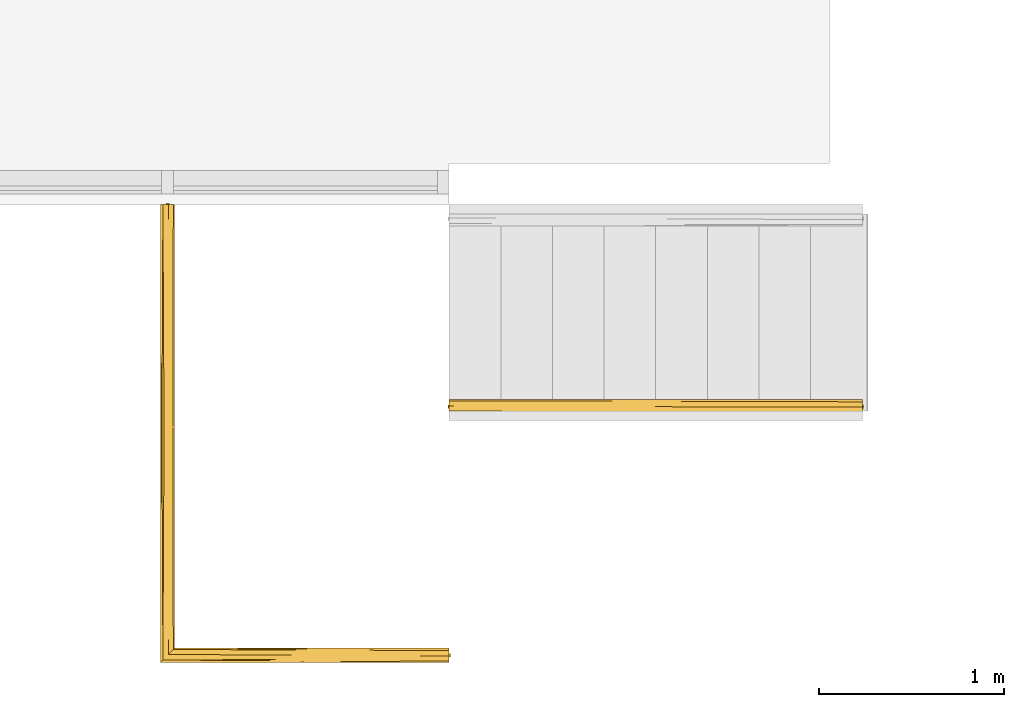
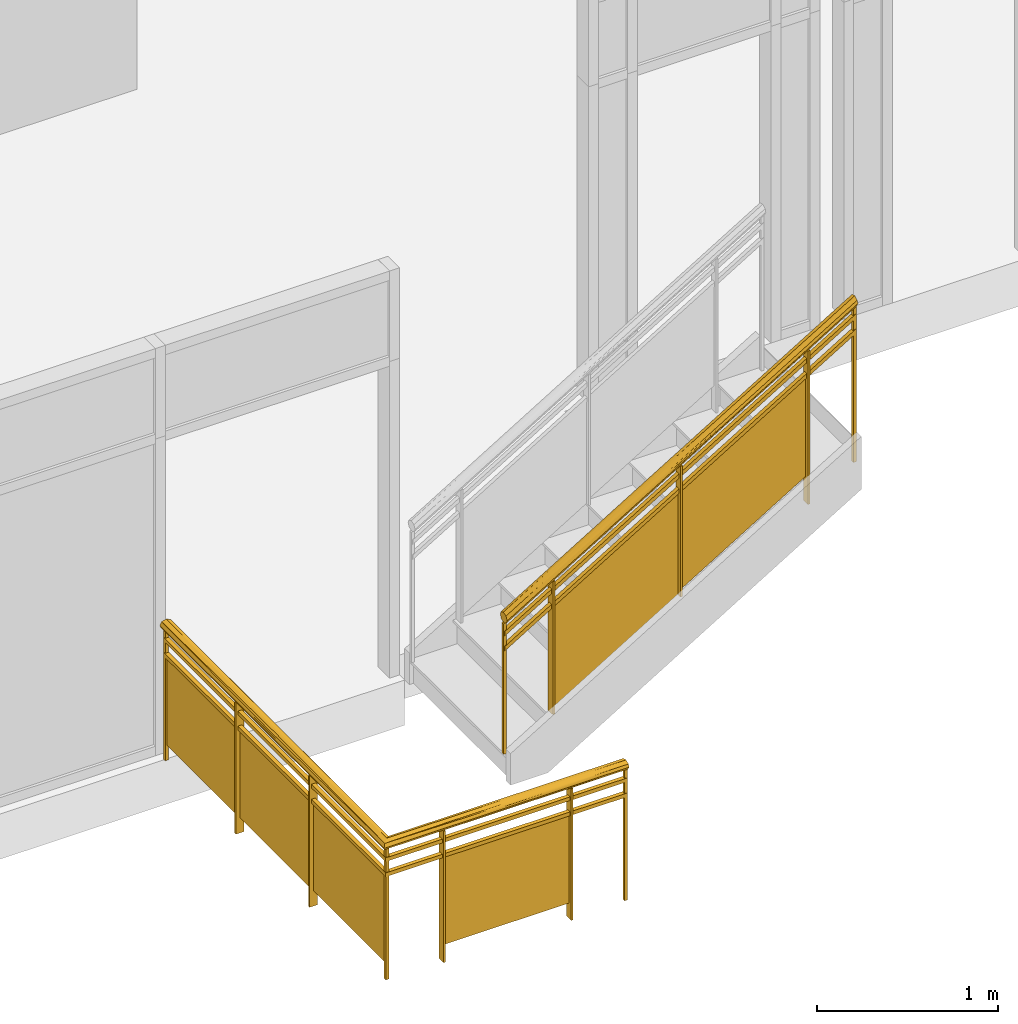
# One storey, part 8 of 11: 2 railings, 1 element without a shape of its own.
"""IFC2X3 building model written with IfcOpenShell, lengths in feet."""

from ifc_helpers import new_model, entity, si_unit, converted_unit, derived_unit, direction, frame, origin, place, context, subcontext, project, spatial, faceted_brep, material, material_list, element, aggregate, save


model = new_model("IFC2X3")

# Units and contexts
model_context = context("Model", 3, precision=0.0001, world=origin(), true_north=direction((6.12303176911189e-17, 1.0)))
body_context = subcontext(model_context, "Body", "Model", "MODEL_VIEW")
ifc_project = project(units=[converted_unit("LENGTHUNIT", "FOOT", entity("IfcRatioMeasure", 0.3048), si_unit("LENGTHUNIT", "METRE"), dimensions=[1, 0, 0, 0, 0, 0, 0]), converted_unit("AREAUNIT", "SQUARE FOOT", entity("IfcRatioMeasure", 0.09290304), si_unit("AREAUNIT", "SQUARE_METRE"), dimensions=[2, 0, 0, 0, 0, 0, 0]), converted_unit("VOLUMEUNIT", "CUBIC FOOT", entity("IfcRatioMeasure", 0.028316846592), si_unit("VOLUMEUNIT", "CUBIC_METRE"), dimensions=[3, 0, 0, 0, 0, 0, 0]), converted_unit("PLANEANGLEUNIT", "DEGREE", entity("IfcRatioMeasure", 0.0174532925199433), si_unit("PLANEANGLEUNIT", "RADIAN"), dimensions=[0, 0, 0, 0, 0, 0, 0]), si_unit("MASSUNIT", "GRAM", prefix="KILO"), derived_unit("MASSDENSITYUNIT", [(si_unit("MASSUNIT", "GRAM", prefix="KILO"), 1), (si_unit("LENGTHUNIT", "METRE"), -3)]), si_unit("TIMEUNIT", "SECOND"), si_unit("FREQUENCYUNIT", "HERTZ"), si_unit("THERMODYNAMICTEMPERATUREUNIT", "DEGREE_CELSIUS"), derived_unit("THERMALTRANSMITTANCEUNIT", [(si_unit("MASSUNIT", "GRAM", prefix="KILO"), 1), (si_unit("THERMODYNAMICTEMPERATUREUNIT", "KELVIN"), -1), (si_unit("TIMEUNIT", "SECOND"), -3)]), derived_unit("VOLUMETRICFLOWRATEUNIT", [(si_unit("LENGTHUNIT", "METRE"), 3), (si_unit("TIMEUNIT", "SECOND"), -1)]), si_unit("ELECTRICCURRENTUNIT", "AMPERE"), si_unit("ELECTRICVOLTAGEUNIT", "VOLT"), si_unit("POWERUNIT", "WATT"), si_unit("FORCEUNIT", "NEWTON"), si_unit("ILLUMINANCEUNIT", "LUX"), si_unit("LUMINOUSFLUXUNIT", "LUMEN"), si_unit("LUMINOUSINTENSITYUNIT", "CANDELA"), derived_unit("USERDEFINED", [(si_unit("MASSUNIT", "GRAM", prefix="KILO"), -1), (si_unit("LENGTHUNIT", "METRE"), -2), (si_unit("TIMEUNIT", "SECOND"), 3), (si_unit("LUMINOUSFLUXUNIT", "LUMEN"), 1)]), derived_unit("LINEARVELOCITYUNIT", [(si_unit("LENGTHUNIT", "METRE"), 1), (si_unit("TIMEUNIT", "SECOND"), -1)]), si_unit("PRESSUREUNIT", "PASCAL"), derived_unit("USERDEFINED", [(si_unit("LENGTHUNIT", "METRE"), -2), (si_unit("MASSUNIT", "GRAM", prefix="KILO"), 1), (si_unit("TIMEUNIT", "SECOND"), -2)])], contexts=[model_context])

# Site, building, storey
site_placement = place(None, origin())
site = spatial("IfcSite", under=ifc_project, at=site_placement, Name="Default", CompositionType="ELEMENT")
building_placement = place(site_placement, origin())
building = spatial("IfcBuilding", under=site, at=building_placement, CompositionType="ELEMENT")
storey_placement = place(building_placement, frame((0.0, 0.0, 40.0)))
storey = spatial("IfcBuildingStorey", under=building, at=storey_placement, Name="L 7", CompositionType="ELEMENT", Elevation=39.9999999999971)

# Stair, railing
stair_placement = place(storey_placement, origin())
stair = element("IfcStair", 1, at=stair_placement, inside=storey, Name="Assembled Stair:Stair", ObjectType="Assembled Stair:7\" max riser 11\" tread", ShapeType="NOTDEFINED")
ifc_material_1 = material(Name="Glass")
ifc_material_2 = material(Name="alum - color")
ifc_material_list_1 = material_list([ifc_material_1, ifc_material_2])
railing_1_placement = place(stair_placement, frame((-46.3459961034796, -11.0505417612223, 0.555555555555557)))
railing_1 = element("IfcRailing", 2, at=railing_1_placement, material=ifc_material_list_1, Name="Railing:Glass Panel - Bottom Fill", ObjectType="Railing:Glass Panel - Bottom Fill", PredefinedType="NOTDEFINED", context=body_context, shape_type="Brep", body=[
    faceted_brep([(6.33333333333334, 0.0469004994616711, 6.71557302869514), (6.33333333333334, 0.213567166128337, 6.71557302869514), (6.33333333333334, 0.213567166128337, 3.33333333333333), (6.33333333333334, 0.0469004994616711, 3.33333333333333), (6.37500000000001, 0.0469004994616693, 6.74082555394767), (6.37500000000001, 0.0469004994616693, 3.33333333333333), (6.37500000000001, 0.213567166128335, 6.74082555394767), (6.37500000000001, 0.213567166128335, 3.33333333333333)], [[[0, 1, 2, 3]], [[4, 0, 3, 5]], [[6, 4, 5, 7]], [[1, 6, 7, 2]], [[1, 0, 4, 6]], [[3, 2, 7, 5]]]),
    faceted_brep([(3.6875, 0.151674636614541, 2.3030303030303), (3.6875, 0.151674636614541, 4.50683388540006), (6.35416666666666, 0.151674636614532, 6.12299550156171), (6.35416666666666, 0.151674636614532, 3.91919191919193), (3.6875, 0.130841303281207, 2.3030303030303), (6.35416666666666, 0.130841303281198, 3.91919191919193), (6.35416666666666, 0.130841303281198, 6.12299550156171), (3.6875, 0.130841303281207, 4.50683388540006)], [[[0, 1, 2, 3]], [[4, 5, 6, 7]], [[1, 0, 4, 7]], [[2, 1, 7, 6]], [[3, 2, 6, 5]], [[0, 3, 5, 4]]]),
    faceted_brep([(3.66666666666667, 0.0469004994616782, 5.09941141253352), (3.66666666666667, 0.213567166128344, 5.09941141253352), (3.66666666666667, 0.213567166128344, 2.22222222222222), (3.66666666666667, 0.0469004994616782, 2.22222222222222), (3.70833333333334, 0.0469004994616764, 5.12466393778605), (3.70833333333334, 0.0469004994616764, 2.22222222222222), (3.70833333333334, 0.213567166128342, 5.12466393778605), (3.70833333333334, 0.213567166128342, 2.22222222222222)], [[[0, 1, 2, 3]], [[4, 0, 3, 5]], [[6, 4, 5, 7]], [[1, 6, 7, 2]], [[1, 0, 4, 6]], [[3, 2, 7, 5]]]),
    faceted_brep([(1.02083333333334, 0.151674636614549, 0.636363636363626), (1.02083333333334, 0.151674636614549, 2.89067226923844), (3.6875, 0.151674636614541, 4.50683388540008), (3.6875, 0.151674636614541, 2.25252525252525), (1.02083333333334, 0.130841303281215, 0.636363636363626), (3.6875, 0.130841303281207, 2.25252525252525), (3.6875, 0.130841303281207, 4.50683388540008), (1.02083333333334, 0.130841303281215, 2.89067226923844)], [[[0, 1, 2, 3]], [[4, 5, 6, 7]], [[1, 0, 4, 7]], [[2, 1, 7, 6]], [[3, 2, 6, 5]], [[0, 3, 5, 4]]]),
    faceted_brep([(1.0, 0.0469004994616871, 3.48324979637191), (1.0, 0.213567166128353, 3.48324979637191), (1.0, 0.213567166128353, 0.555555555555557), (1.0, 0.0469004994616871, 0.555555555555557), (1.04166666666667, 0.0469004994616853, 3.50850232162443), (1.04166666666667, 0.0469004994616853, 0.555555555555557), (1.04166666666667, 0.213567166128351, 3.50850232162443), (1.04166666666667, 0.213567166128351, 0.555555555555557)], [[[0, 1, 2, 3]], [[4, 0, 3, 5]], [[6, 4, 5, 7]], [[1, 6, 7, 2]], [[1, 0, 4, 6]], [[3, 2, 7, 5]]]),
    faceted_brep([(7.31250000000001, 0.0989838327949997, 7.30900737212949), (7.31250000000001, 0.161483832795, 7.30900737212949), (7.31250000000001, 0.161483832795, 3.88888888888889), (7.31250000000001, 0.0989838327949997, 3.88888888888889), (7.37500000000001, 0.0989838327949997, 7.34688616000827), (7.37500000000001, 0.0989838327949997, 3.88888888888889), (7.37500000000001, 0.161483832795, 7.34688616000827), (7.37500000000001, 0.161483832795, 3.88888888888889)], [[[0, 1, 2, 3]], [[4, 0, 3, 5]], [[6, 4, 5, 7]], [[1, 6, 7, 2]], [[1, 0, 4, 6]], [[3, 2, 7, 5]]]),
    faceted_brep([(0.0, 0.0989838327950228, 2.8771891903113), (0.0, 0.161483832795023, 2.8771891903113), (0.0, 0.161483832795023, 0.0), (0.0, 0.0989838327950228, 0.0), (0.0625, 0.0989838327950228, 2.91506797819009), (0.0625, 0.0989838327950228, 0.0), (0.0625, 0.161483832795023, 2.91506797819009), (0.0625, 0.161483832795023, 0.0)], [[[0, 1, 2, 3]], [[4, 0, 3, 5]], [[6, 4, 5, 7]], [[1, 6, 7, 2]], [[1, 0, 4, 6]], [[3, 2, 7, 5]]]),
    faceted_brep([(0.0208333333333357, 0.0885671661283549, 2.71538833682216), (0.0208333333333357, 0.171900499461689, 2.71538833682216), (0.0208333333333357, 0.171900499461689, 2.61794499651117), (0.0208333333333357, 0.0885671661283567, 2.61794499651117), (7.35416666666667, 0.0885671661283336, 7.15983278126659), (7.35416666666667, 0.0885671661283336, 7.06238944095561), (7.35416666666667, 0.171900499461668, 7.06238944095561), (7.35416666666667, 0.171900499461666, 7.15983278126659)], [[[0, 1, 2, 3]], [[4, 5, 6, 7]], [[1, 0, 4, 7]], [[2, 1, 7, 6]], [[3, 2, 6, 5]], [[0, 3, 5, 4]]]),
    faceted_brep([(0.0208333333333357, 0.0885671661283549, 2.38205500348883), (0.0208333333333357, 0.171900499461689, 2.38205500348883), (0.0208333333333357, 0.171900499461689, 2.28461166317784), (0.0208333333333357, 0.0885671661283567, 2.28461166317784), (7.35416666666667, 0.0885671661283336, 6.82649944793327), (7.35416666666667, 0.0885671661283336, 6.72905610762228), (7.35416666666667, 0.171900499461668, 6.72905610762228), (7.35416666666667, 0.171900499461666, 6.82649944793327)], [[[0, 1, 2, 3]], [[4, 5, 6, 7]], [[1, 0, 4, 7]], [[2, 1, 7, 6]], [[3, 2, 6, 5]], [[0, 3, 5, 4]]]),
    faceted_brep([(0.0208333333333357, 0.0465925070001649, 3.08146632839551), (0.0208333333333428, 0.0949461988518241, 3.09524477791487), (0.0208333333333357, 0.14329989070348, 3.10902322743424), (0.0208333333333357, 0.187330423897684, 3.08672922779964), (0.0208333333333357, 0.231360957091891, 3.06443522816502), (0.0208333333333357, 0.243297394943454, 3.03221761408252), (0.0208333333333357, 0.255233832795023, 3.0), (0.0208333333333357, 0.23455449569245, 2.95926683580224), (0.0208333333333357, 0.213875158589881, 2.91853367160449), (0.0208333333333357, 0.165521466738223, 2.90475522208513), (0.0208333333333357, 0.141344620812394, 2.89786599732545), (0.0208333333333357, 0.117167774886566, 2.89097677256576), (0.0208333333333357, 0.0731372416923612, 2.91327077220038), (0.0208333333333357, 0.0291067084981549, 2.93556477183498), (0.0208333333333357, 0.0171702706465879, 2.9677823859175), (0.0208333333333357, 0.00523383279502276, 3.0), (0.0208333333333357, 0.0259131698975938, 3.04073316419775), (7.35416666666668, 0.0259131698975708, 7.40371128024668), (7.35416666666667, 0.0465925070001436, 7.36297811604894), (7.35416666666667, 0.0949461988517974, 7.34919966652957), (7.35416666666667, 0.143299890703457, 7.3354212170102), (7.35416666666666, 0.187330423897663, 7.35771521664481), (7.35416666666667, 0.231360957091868, 7.38000921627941), (7.35416666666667, 0.243297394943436, 7.41222683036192), (7.35416666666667, 0.255233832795, 7.44444444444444), (7.35416666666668, 0.244378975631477, 7.46582582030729), (7.35416666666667, 0.23455449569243, 7.48517760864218), (7.35416666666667, 0.213875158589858, 7.52591077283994), (7.35416666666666, 0.165521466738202, 7.5396892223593), (7.35416666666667, 0.117167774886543, 7.55346767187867), (7.35416666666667, 0.0951525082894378, 7.54232067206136), (7.35416666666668, 0.0731372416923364, 7.53117367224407), (7.35416666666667, 0.0291067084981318, 7.50887967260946), (7.35416666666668, 0.0171702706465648, 7.47666205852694), (7.35416666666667, 0.00523383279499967, 7.44444444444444), (3.70029054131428, 0.246755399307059, 5.19028869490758), (3.87247818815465, 0.177511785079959, 5.23284993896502), (3.9157838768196, 0.207600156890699, 5.27447257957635), (3.07871506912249, 0.231313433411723, 4.78876910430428), (3.15949561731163, 0.255233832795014, 4.90221956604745), (4.21550890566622, 0.25523383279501, 5.54222761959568), (4.04114830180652, 0.0629732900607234, 5.3441536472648), (3.22585875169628, 0.0946029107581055, 4.83736380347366), (3.68929300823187, 0.130201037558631, 5.11368513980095), (3.72718018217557, 0.0367721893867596, 5.1734757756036), (3.44651497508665, 0.0177333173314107, 5.02838773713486), (3.15948629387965, 0.00523383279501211, 4.90221391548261), (3.54783177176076, 0.0115093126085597, 5.17187272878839), (3.33044597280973, 0.0259810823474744, 5.06630868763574), (4.14481111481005, 0.0490518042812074, 5.58273826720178), (3.68590222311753, 0.079440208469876, 5.32141906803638), (3.19149194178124, 0.251785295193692, 4.94718335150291), (3.54340951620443, 0.127144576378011, 5.24448493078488), (3.42716626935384, 0.161623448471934, 5.17055526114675), (3.59902271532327, 0.22185380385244, 5.24317359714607), (3.37926588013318, 0.241652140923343, 5.08510860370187), (4.26044448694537, 0.193327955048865, 5.66409552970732)], [[[0, 1, 2, 3, 4, 5, 6, 7, 8, 9, 10, 11, 12, 13, 14, 15, 16]], [[17, 18, 19, 20, 21, 22, 23, 24, 25, 26, 27, 28, 29, 30, 31, 32, 33, 34]], [[35, 7, 6]], [[9, 8, 36, 10]], [[22, 37, 38]], [[37, 36, 8]], [[21, 36, 37]], [[35, 6, 39, 40]], [[41, 42, 19]], [[38, 7, 35]], [[19, 42, 43]], [[44, 41, 18]], [[13, 45, 14]], [[8, 38, 37]], [[44, 12, 41]], [[38, 8, 7]], [[11, 43, 42]], [[17, 34, 46]], [[35, 23, 22]], [[11, 10, 43]], [[40, 24, 23]], [[21, 37, 22]], [[36, 21, 20]], [[36, 20, 43]], [[36, 43, 10]], [[43, 20, 19]], [[42, 12, 11]], [[12, 42, 41]], [[13, 12, 44]], [[18, 41, 19]], [[46, 15, 14]], [[44, 18, 17]], [[17, 45, 44]], [[38, 35, 22]], [[45, 17, 46]], [[23, 35, 40]], [[44, 45, 13]], [[14, 45, 46]], [[16, 47, 48]], [[0, 48, 49]], [[49, 31, 50]], [[31, 30, 50]], [[51, 26, 25]], [[2, 52, 53]], [[54, 27, 26]], [[54, 55, 4]], [[26, 51, 55]], [[47, 16, 15]], [[54, 26, 55]], [[5, 4, 55]], [[25, 24, 40, 39]], [[56, 54, 3]], [[56, 3, 53]], [[50, 0, 49]], [[27, 54, 56]], [[51, 39, 6]], [[53, 52, 28]], [[54, 4, 3]], [[56, 28, 27]], [[28, 56, 53]], [[5, 55, 51]], [[29, 28, 52]], [[2, 53, 3]], [[30, 29, 52]], [[52, 2, 1]], [[1, 0, 50]], [[52, 50, 30]], [[1, 50, 52]], [[49, 32, 31]], [[32, 49, 48]], [[33, 48, 47]], [[16, 48, 0]], [[46, 34, 47, 15]], [[33, 32, 48]], [[33, 47, 34]], [[5, 51, 6]], [[39, 51, 25]]]),
])
aggregate(stair, [railing_1])

# Railing
ifc_material_list_2 = material_list([ifc_material_1, ifc_material_2])
railing_2_placement = place(storey_placement, frame((-51.4553966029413, -15.4672084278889, 0.0)))
element("IfcRailing", 3, at=railing_2_placement, inside=storey, material=ifc_material_list_2, Name="Railing:Glass Panel - Bottom Fill", ObjectType="Railing:Glass Panel - Bottom Fill", PredefinedType="NOTDEFINED", context=body_context, shape_type="Brep", body=[
    faceted_brep([(3.94273383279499, 0.0469004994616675, 2.90577041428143), (3.94273383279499, 0.213567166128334, 2.90577041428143), (3.94273383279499, 0.213567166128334, 0.0), (3.94273383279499, 0.0469004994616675, 0.0), (3.98440049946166, 0.0469004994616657, 2.90577041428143), (3.98440049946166, 0.0469004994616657, 0.0), (3.98440049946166, 0.213567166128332, 2.90577041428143), (3.98440049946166, 0.213567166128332, 0.0)], [[[0, 1, 2, 3]], [[4, 0, 3, 5]], [[6, 4, 5, 7]], [[1, 6, 7, 2]], [[1, 0, 4, 6]], [[3, 2, 7, 5]]]),
    faceted_brep([(1.29690049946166, 0.15167463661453, 0.333333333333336), (1.29690049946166, 0.15167463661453, 2.29166666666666), (3.96356716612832, 0.15167463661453, 2.29166666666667), (3.96356716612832, 0.15167463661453, 0.333333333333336), (1.29690049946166, 0.130841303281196, 0.333333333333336), (3.96356716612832, 0.130841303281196, 0.333333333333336), (3.96356716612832, 0.130841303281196, 2.29166666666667), (1.29690049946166, 0.130841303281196, 2.29166666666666)], [[[0, 1, 2, 3]], [[4, 5, 6, 7]], [[1, 0, 4, 7]], [[2, 1, 7, 6]], [[3, 2, 6, 5]], [[0, 3, 5, 4]]]),
    faceted_brep([(1.27606716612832, 0.0469004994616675, 2.90577041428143), (1.27606716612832, 0.213567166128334, 2.90577041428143), (1.27606716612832, 0.213567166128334, 0.0), (1.27606716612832, 0.0469004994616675, 0.0), (1.31773383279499, 0.0469004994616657, 2.90577041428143), (1.31773383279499, 0.0469004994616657, 0.0), (1.31773383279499, 0.213567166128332, 2.90577041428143), (1.31773383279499, 0.213567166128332, 0.0)], [[[0, 1, 2, 3]], [[4, 0, 3, 5]], [[6, 4, 5, 7]], [[1, 6, 7, 2]], [[1, 0, 4, 6]], [[3, 2, 7, 5]]]),
    faceted_brep([(0.15167463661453, 2.79690049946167, 0.333333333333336), (0.15167463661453, 2.79690049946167, 2.29166666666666), (0.15167463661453, 0.130233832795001, 2.29166666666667), (0.15167463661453, 0.130233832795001, 0.333333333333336), (0.130841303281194, 2.79690049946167, 0.333333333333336), (0.130841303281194, 0.130233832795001, 0.333333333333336), (0.130841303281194, 0.130233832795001, 2.29166666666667), (0.130841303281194, 2.79690049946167, 2.29166666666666)], [[[0, 1, 2, 3]], [[4, 5, 6, 7]], [[1, 0, 4, 7]], [[2, 1, 7, 6]], [[3, 2, 6, 5]], [[0, 3, 5, 4]]]),
    faceted_brep([(0.0469004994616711, 2.817733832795, 2.90577041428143), (0.213567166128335, 2.817733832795, 2.90577041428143), (0.213567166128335, 2.817733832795, 0.0), (0.0469004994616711, 2.817733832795, 0.0), (0.046900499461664, 2.77606716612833, 2.90577041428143), (0.046900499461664, 2.77606716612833, 0.0), (0.213567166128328, 2.77606716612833, 2.90577041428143), (0.213567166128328, 2.77606716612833, 0.0)], [[[0, 1, 2, 3]], [[4, 0, 3, 5]], [[6, 4, 5, 7]], [[1, 6, 7, 2]], [[1, 0, 4, 6]], [[3, 2, 7, 5]]]),
    faceted_brep([(0.15167463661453, 5.46356716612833, 0.333333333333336), (0.15167463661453, 5.46356716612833, 2.29166666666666), (0.15167463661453, 2.79690049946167, 2.29166666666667), (0.15167463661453, 2.79690049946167, 0.333333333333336), (0.130841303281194, 5.46356716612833, 0.333333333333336), (0.130841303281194, 2.79690049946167, 0.333333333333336), (0.130841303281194, 2.79690049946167, 2.29166666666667), (0.130841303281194, 5.46356716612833, 2.29166666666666)], [[[0, 1, 2, 3]], [[4, 5, 6, 7]], [[1, 0, 4, 7]], [[2, 1, 7, 6]], [[3, 2, 6, 5]], [[0, 3, 5, 4]]]),
    faceted_brep([(0.0469004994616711, 5.48440049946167, 2.90577041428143), (0.213567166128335, 5.48440049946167, 2.90577041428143), (0.213567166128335, 5.48440049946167, 0.0), (0.0469004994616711, 5.48440049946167, 0.0), (0.046900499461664, 5.442733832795, 2.90577041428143), (0.046900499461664, 5.442733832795, 0.0), (0.213567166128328, 5.442733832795, 2.90577041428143), (0.213567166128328, 5.442733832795, 0.0)], [[[0, 1, 2, 3]], [[4, 0, 3, 5]], [[6, 4, 5, 7]], [[1, 6, 7, 2]], [[1, 0, 4, 6]], [[3, 2, 7, 5]]]),
    faceted_brep([(0.15167463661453, 8.130233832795, 0.333333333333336), (0.15167463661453, 8.130233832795, 2.29166666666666), (0.15167463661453, 5.46356716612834, 2.29166666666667), (0.15167463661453, 5.46356716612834, 0.333333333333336), (0.130841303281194, 8.130233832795, 0.333333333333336), (0.130841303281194, 5.46356716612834, 0.333333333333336), (0.130841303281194, 5.46356716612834, 2.29166666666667), (0.130841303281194, 8.130233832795, 2.29166666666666)], [[[0, 1, 2, 3]], [[4, 5, 6, 7]], [[1, 0, 4, 7]], [[2, 1, 7, 6]], [[3, 2, 6, 5]], [[0, 3, 5, 4]]]),
    faceted_brep([(0.0989838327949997, 0.161483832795, 2.90577041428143), (0.161483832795, 0.161483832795, 2.90577041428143), (0.161483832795, 0.161483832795, 0.0), (0.0989838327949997, 0.161483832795, 0.0), (0.0989838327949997, 0.0989838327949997, 2.90577041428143), (0.0989838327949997, 0.0989838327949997, 0.0), (0.161483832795, 0.0989838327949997, 2.90577041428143), (0.161483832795, 0.0989838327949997, 0.0)], [[[0, 1, 2, 3]], [[4, 0, 3, 5]], [[6, 4, 5, 7]], [[1, 6, 7, 2]], [[1, 0, 4, 6]], [[3, 2, 7, 5]]]),
    faceted_brep([(5.08856716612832, 0.0989838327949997, 2.90577041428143), (5.08856716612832, 0.161483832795, 2.90577041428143), (5.08856716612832, 0.161483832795, 0.0), (5.08856716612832, 0.0989838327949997, 0.0), (5.15106716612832, 0.0989838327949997, 2.90577041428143), (5.15106716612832, 0.0989838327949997, 0.0), (5.15106716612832, 0.161483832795, 2.90577041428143), (5.15106716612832, 0.161483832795, 0.0)], [[[0, 1, 2, 3]], [[4, 0, 3, 5]], [[6, 4, 5, 7]], [[1, 6, 7, 2]], [[1, 0, 4, 6]], [[3, 2, 7, 5]]]),
    faceted_brep([(0.0989838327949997, 8.15106716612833, 2.90577041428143), (0.161483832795, 8.15106716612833, 2.90577041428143), (0.161483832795, 8.15106716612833, 0.0), (0.0989838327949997, 8.15106716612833, 0.0), (0.0989838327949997, 8.08856716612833, 2.90577041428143), (0.0989838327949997, 8.08856716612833, 0.0), (0.161483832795, 8.08856716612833, 2.90577041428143), (0.161483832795, 8.08856716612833, 0.0)], [[[0, 1, 2, 3]], [[4, 0, 3, 5]], [[6, 4, 5, 7]], [[1, 6, 7, 2]], [[1, 0, 4, 6]], [[3, 2, 7, 5]]]),
    faceted_brep([(0.0885671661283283, 8.130233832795, 2.70833333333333), (0.171900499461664, 8.130233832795, 2.70833333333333), (0.171900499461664, 8.130233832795, 2.625), (0.0885671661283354, 8.130233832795, 2.625), (0.0885671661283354, 0.0885671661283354, 2.70833333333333), (0.171900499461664, 0.171900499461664, 2.70833333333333), (0.171900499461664, 0.171900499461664, 2.625), (0.0885671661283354, 0.0885671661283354, 2.625), (5.13023383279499, 0.0885671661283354, 2.70833333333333), (5.13023383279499, 0.0885671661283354, 2.62499999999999), (5.13023383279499, 0.171900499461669, 2.625), (5.13023383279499, 0.171900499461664, 2.70833333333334)], [[[0, 1, 2, 3]], [[1, 0, 4, 5]], [[2, 1, 5, 6]], [[3, 2, 6, 7]], [[0, 3, 7, 4]], [[8, 9, 10, 11]], [[5, 4, 8, 11]], [[6, 5, 11, 10]], [[7, 6, 10, 9]], [[4, 7, 9, 8]]]),
    faceted_brep([(0.0885671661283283, 8.130233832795, 2.375), (0.171900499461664, 8.130233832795, 2.375), (0.171900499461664, 8.130233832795, 2.29166666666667), (0.0885671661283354, 8.130233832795, 2.29166666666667), (0.0885671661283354, 0.0885671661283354, 2.375), (0.171900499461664, 0.171900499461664, 2.375), (0.171900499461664, 0.171900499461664, 2.29166666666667), (0.0885671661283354, 0.0885671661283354, 2.29166666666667), (5.13023383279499, 0.0885671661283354, 2.375), (5.13023383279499, 0.0885671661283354, 2.29166666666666), (5.13023383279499, 0.171900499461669, 2.29166666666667), (5.13023383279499, 0.171900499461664, 2.37500000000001)], [[[0, 1, 2, 3]], [[1, 0, 4, 5]], [[2, 1, 5, 6]], [[3, 2, 6, 7]], [[0, 3, 7, 4]], [[8, 9, 10, 11]], [[5, 4, 8, 11]], [[6, 5, 11, 10]], [[7, 6, 10, 9]], [[4, 7, 9, 8]]]),
    faceted_brep([(0.117167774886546, 8.130233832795, 2.90676357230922), (0.0731372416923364, 8.130233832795, 2.92582935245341), (0.0291067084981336, 8.130233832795, 2.94489513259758), (0.0171702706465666, 8.130233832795, 2.97244756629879), (0.00523383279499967, 8.130233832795, 3.0), (0.0259131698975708, 8.130233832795, 3.03483491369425), (0.0465925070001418, 8.130233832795, 3.06966982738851), (0.094946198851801, 8.130233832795, 3.08145312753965), (0.143299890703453, 8.130233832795, 3.09323642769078), (0.187330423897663, 8.130233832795, 3.07417064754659), (0.231360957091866, 8.130233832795, 3.05510486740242), (0.243297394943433, 8.130233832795, 3.02755243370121), (0.255233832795, 8.130233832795, 3.0), (0.234554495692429, 8.130233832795, 2.96516508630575), (0.213875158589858, 8.130233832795, 2.9303301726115), (0.165521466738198, 8.130233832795, 2.91854687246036), (0.165521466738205, 0.165521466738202, 2.91854687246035), (0.117167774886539, 0.117167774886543, 2.90676357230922), (0.143299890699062, 4.14787766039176, 2.90676357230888), (0.0188580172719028, 4.07967027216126, 2.95743839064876), (0.0291067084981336, 0.02910670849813, 2.94489513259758), (0.0171702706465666, 0.0171702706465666, 2.97244756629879), (0.0137391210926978, 0.0137391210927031, 2.98036756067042), (0.234554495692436, 0.23455449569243, 2.96516508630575), (0.213875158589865, 0.213875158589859, 2.9303301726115), (0.23130291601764, 4.17205446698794, 2.94483526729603), (0.00523383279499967, 0.00523383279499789, 3.0), (0.00523383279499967, 3.52235380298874, 3.0), (0.192733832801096, 4.17205450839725, 2.91881011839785), (0.0085814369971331, 4.56614973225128, 2.97844882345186), (0.00523383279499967, 3.57772891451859, 3.0), (0.0731372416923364, 0.0731372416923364, 2.92582935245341), (0.0914039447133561, 4.10168553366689, 2.91088800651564), (0.246600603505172, 4.18239410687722, 2.96576371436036), (0.039745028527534, 4.07967026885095, 2.93532244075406), (0.255233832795, 4.61312962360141, 3.0), (0.255233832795, 4.55774796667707, 3.0), (0.255233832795, 0.255233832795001, 3.0), (0.0635502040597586, 4.29614994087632, 2.92070441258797), (0.241449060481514, 0.241449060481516, 2.97677917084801), (0.117167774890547, 4.13676685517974, 3.09323642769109), (0.243297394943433, 0.243297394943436, 3.02755243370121), (0.241575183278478, 4.18079739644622, 3.04261230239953), (0.231360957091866, 0.231360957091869, 3.05510486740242), (0.0259131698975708, 0.0259131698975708, 3.03483491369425), (0.0291067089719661, 4.08841313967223, 3.05510486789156), (0.0134595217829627, 4.07807343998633, 3.03344663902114), (0.0465925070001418, 0.0465925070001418, 3.06966982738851), (0.0675305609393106, 4.08841318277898, 3.08110167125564), (0.168659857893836, 4.13676686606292, 3.08921041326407), (0.221524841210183, 4.18079739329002, 3.06404030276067), (0.251826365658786, 3.78364768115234, 3.02174037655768), (0.0707693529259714, 0.0707693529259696, 3.07556147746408), (0.0949461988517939, 0.0949461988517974, 3.08145312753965), (0.187330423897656, 0.187330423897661, 3.07417064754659), (0.197226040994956, 4.20738820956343, 3.07914914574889), (0.244356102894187, 0.244356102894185, 3.02510865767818), (0.143299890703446, 0.143299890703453, 3.09323642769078), (0.119123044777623, 0.119123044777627, 3.08734477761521), (5.13023383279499, 0.0259131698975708, 2.96516508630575), (5.13023383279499, 0.0465925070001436, 2.93033017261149), (5.13023383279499, 0.094946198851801, 2.91854687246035), (5.13023383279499, 0.143299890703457, 2.90676357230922), (5.13023383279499, 0.187330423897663, 2.92582935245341), (5.13023383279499, 0.231360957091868, 2.94489513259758), (5.13023383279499, 0.243297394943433, 2.97244756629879), (5.13023383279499, 0.255233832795, 3.0), (5.13023383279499, 0.234554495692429, 3.03483491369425), (5.13023383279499, 0.213875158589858, 3.06966982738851), (5.13023383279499, 0.165521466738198, 3.08145312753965), (5.13023383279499, 0.117167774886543, 3.09323642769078), (5.13023383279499, 0.0731372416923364, 3.07417064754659), (5.13023383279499, 0.0291067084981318, 3.05510486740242), (5.13023383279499, 0.0171702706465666, 3.02755243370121), (5.13023383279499, 0.00523383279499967, 3.0), (2.90239529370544, 0.241609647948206, 2.95743839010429), (2.70037614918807, 0.222558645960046, 2.9367988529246), (2.90645167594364, 0.251872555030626, 2.97840545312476), (2.3629910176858, 0.255233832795, 3.0), (3.09254439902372, 0.255233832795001, 3.0), (2.34978165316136, 0.195707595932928, 2.92013930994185), (2.77247653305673, 0.00523383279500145, 3.0), (2.39034776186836, 0.0180983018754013, 2.95857566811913), (2.60535897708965, 0.130792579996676, 2.90625093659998), (2.92509581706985, 0.164339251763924, 2.90980701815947), (2.34287893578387, 0.0959444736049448, 2.90984625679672), (2.56660659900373, 0.0376121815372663, 2.9370436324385), (2.88561839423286, 0.0639929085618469, 2.92049596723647), (2.29292314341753, 0.00523383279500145, 3.0), (2.60050159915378, 0.0564588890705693, 3.07568038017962), (2.25480502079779, 0.0307681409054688, 3.05678038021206), (2.90811221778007, 0.197520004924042, 3.07900875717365), (2.71495766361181, 0.223804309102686, 3.06216213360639), (2.62419605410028, 0.0145921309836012, 3.03559140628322), (2.7145055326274, 0.132589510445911, 3.09373335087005), (2.82485670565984, 0.0979297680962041, 3.09056524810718), (2.40596040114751, 0.242343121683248, 3.04146426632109), (2.30840830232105, 0.165863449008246, 3.0898609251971)], [[[0, 1, 2, 3, 4, 5, 6, 7, 8, 9, 10, 11, 12, 13, 14, 15]], [[16, 17, 18]], [[19, 20, 21, 22]], [[23, 24, 25]], [[22, 26, 27]], [[25, 14, 13]], [[15, 14, 28]], [[24, 16, 28]], [[29, 27, 30, 4]], [[29, 3, 19]], [[31, 32, 17]], [[0, 32, 1]], [[3, 2, 19]], [[25, 13, 33]], [[15, 18, 0]], [[2, 34, 19]], [[1, 34, 2]], [[29, 19, 22]], [[33, 12, 35, 36, 37]], [[20, 19, 34]], [[34, 31, 20]], [[38, 32, 31]], [[3, 29, 4]], [[27, 29, 22]], [[18, 15, 28]], [[24, 28, 25]], [[32, 0, 18]], [[16, 18, 28]], [[25, 33, 23]], [[14, 25, 28]], [[13, 12, 33]], [[18, 17, 32]], [[1, 32, 38]], [[33, 37, 39, 23]], [[38, 34, 1]], [[34, 38, 31]], [[40, 8, 7]], [[41, 42, 43]], [[44, 45, 46]], [[10, 42, 11]], [[46, 5, 4]], [[47, 48, 45]], [[40, 49, 8]], [[43, 42, 50]], [[41, 51, 42]], [[48, 47, 52, 53]], [[54, 55, 49]], [[10, 50, 42]], [[51, 41, 56, 37]], [[55, 9, 49]], [[48, 40, 7]], [[57, 54, 49]], [[51, 12, 11]], [[45, 6, 5]], [[43, 50, 54]], [[50, 10, 9]], [[51, 37, 36, 35, 12]], [[42, 51, 11]], [[57, 49, 40]], [[8, 49, 9]], [[6, 45, 48]], [[47, 45, 44]], [[45, 5, 46]], [[46, 4, 30, 27, 26]], [[6, 48, 7]], [[40, 53, 58, 57]], [[53, 40, 48]], [[55, 50, 9]], [[50, 55, 54]], [[44, 46, 26]], [[59, 60, 61, 62, 63, 64, 65, 66, 67, 68, 69, 70, 71, 72, 73, 74]], [[65, 64, 75]], [[76, 24, 23]], [[23, 77, 75]], [[76, 23, 75]], [[77, 78, 79, 66]], [[39, 37, 78]], [[63, 80, 76]], [[80, 16, 24]], [[81, 82, 59]], [[62, 83, 84]], [[83, 61, 85]], [[86, 60, 59]], [[24, 76, 80]], [[61, 83, 62]], [[76, 75, 64]], [[77, 23, 39]], [[76, 64, 63]], [[80, 63, 84]], [[16, 80, 84]], [[65, 75, 77]], [[65, 77, 66]], [[78, 77, 39]], [[85, 61, 87]], [[62, 84, 63]], [[17, 16, 83]], [[84, 83, 16]], [[60, 86, 87]], [[85, 17, 83]], [[85, 31, 17]], [[31, 85, 87]], [[20, 82, 21]], [[60, 87, 61]], [[20, 31, 86]], [[87, 86, 31]], [[59, 74, 81]], [[59, 82, 86]], [[21, 81, 88, 26, 22]], [[86, 82, 20]], [[21, 82, 81]], [[89, 90, 72]], [[91, 68, 92]], [[93, 73, 72]], [[70, 94, 95]], [[96, 56, 41, 43]], [[94, 97, 57]], [[94, 58, 95]], [[91, 69, 68]], [[97, 91, 54]], [[54, 91, 92]], [[56, 79, 78, 37]], [[43, 92, 96]], [[68, 67, 92]], [[96, 67, 79]], [[54, 92, 43]], [[66, 79, 67]], [[96, 92, 67]], [[56, 96, 79]], [[69, 91, 97]], [[70, 69, 94]], [[57, 97, 54]], [[97, 94, 69]], [[52, 47, 89]], [[52, 89, 95]], [[71, 95, 89]], [[95, 71, 70]], [[53, 52, 95, 58]], [[94, 57, 58]], [[89, 72, 71]], [[93, 44, 26]], [[88, 93, 26]], [[90, 89, 47]], [[90, 47, 44]], [[90, 93, 72]], [[90, 44, 93]], [[73, 88, 81, 74]], [[73, 93, 88]]]),
])

save(model, "model.ifc")
